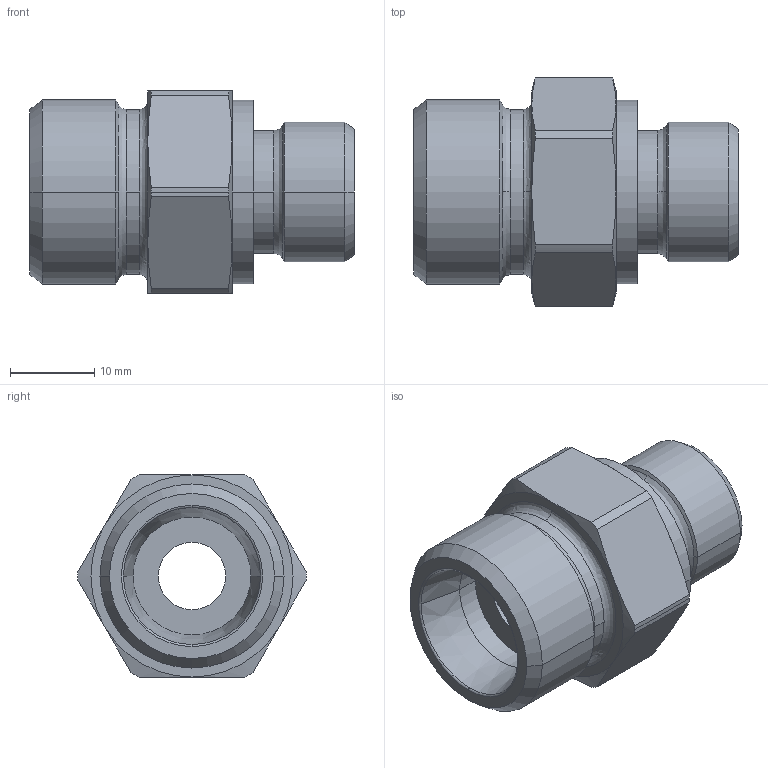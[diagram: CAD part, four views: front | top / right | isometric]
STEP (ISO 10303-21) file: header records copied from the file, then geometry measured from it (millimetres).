
FILE_DESCRIPTION((''),'2;1');
FILE_NAME('100536.stp','2007-10-30T14:35:00',(''),(''),'AutoCAD STEP 2000i','AutoCAD 2000i',', , ');
FILE_SCHEMA(('CONFIG_CONTROL_DESIGN'));
Length unit declared in the file: millimetre
Products named in the file (2): 100536.0; CHIAVE SMUSSATA#0
Assembly tree (1 placements, depth 2):
  100536.0
    CHIAVE SMUSSATA#0
Bounding box: 38.5 x 27.1 x 24 mm (x, y, z)
Volume: 10100 mm3; surface area: 4652.6 mm2
Topology: 1 solids, 1 shells, 75 faces, 185 edges, 117 vertices
Faces by surface type: cylinder 24, cone 24, plane 13, bspline 12, torus 2
Entity records: 2835 total; most frequent: CARTESIAN_POINT 955, DIRECTION 410, ORIENTED_EDGE 370, EDGE_CURVE 185, AXIS2_PLACEMENT_3D 184, CIRCLE 119, VERTEX_POINT 117, EDGE_LOOP 82
